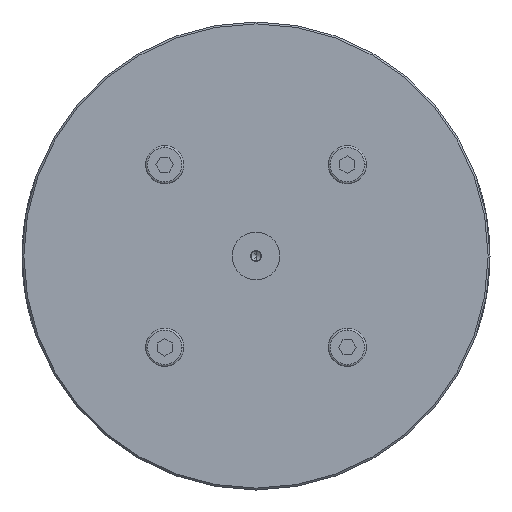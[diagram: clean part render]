
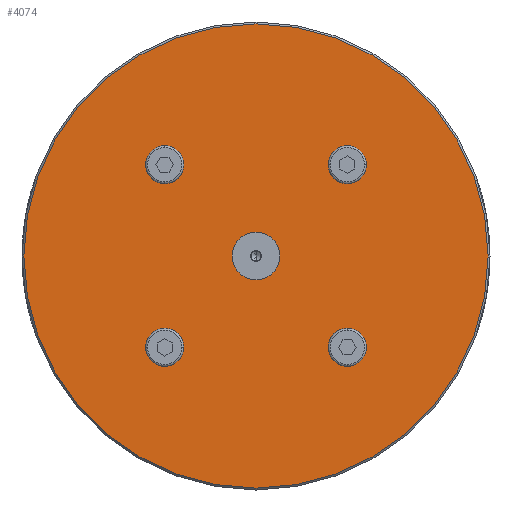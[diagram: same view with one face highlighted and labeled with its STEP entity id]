
A CAD part, front view. The second image highlights one B-rep face of the part: STEP entity #4074.
In plain terms, the highlighted planar face has unit normal (0, -1, 0).
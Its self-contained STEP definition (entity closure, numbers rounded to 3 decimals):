
#352 = CARTESIAN_POINT ( 'NONE',  ( 12.5, 0., 0. ) ) ;
#355 = FACE_OUTER_BOUND ( 'NONE', #2183, .T. ) ;
#356 = FACE_BOUND ( 'NONE', #2190, .T. ) ;
#357 = PLANE ( 'NONE',  #3518 ) ;
#359 = DIRECTION ( 'NONE',  ( 0., -1., 0. ) ) ;
#360 = DIRECTION ( 'NONE',  ( 1., 0., 0. ) ) ;
#1271 = CARTESIAN_POINT ( 'NONE',  ( -12.5, 0., 0. ) ) ;
#1429 = CARTESIAN_POINT ( 'NONE',  ( -122., 0., 0. ) ) ;
#1796 = CARTESIAN_POINT ( 'NONE',  ( 0., 0., 0. ) ) ;
#1797 = DIRECTION ( 'NONE',  ( 0., -1., 0. ) ) ;
#1798 = DIRECTION ( 'NONE',  ( 1., 0., 0. ) ) ;
#1799 = CARTESIAN_POINT ( 'NONE',  ( 0., 0., 0. ) ) ;
#1800 = DIRECTION ( 'NONE',  ( 0., -1., 0. ) ) ;
#1801 = DIRECTION ( 'NONE',  ( 1., 0., 0. ) ) ;
#1819 = CARTESIAN_POINT ( 'NONE',  ( 0., 0., 0. ) ) ;
#1820 = DIRECTION ( 'NONE',  ( 0., -1., 0. ) ) ;
#1821 = DIRECTION ( 'NONE',  ( 1., 0., 0. ) ) ;
#2183 = EDGE_LOOP ( 'NONE', ( #3681, #3679 ) ) ;
#2190 = EDGE_LOOP ( 'NONE', ( #3678, #3677 ) ) ;
#3191 = CARTESIAN_POINT ( 'NONE',  ( 0., 0., 0. ) ) ;
#3192 = DIRECTION ( 'NONE',  ( 0., -1., 0. ) ) ;
#3193 = DIRECTION ( 'NONE',  ( 1., 0., 0. ) ) ;
#3518 = AXIS2_PLACEMENT_3D ( 'NONE', #352, #359, #360 ) ;
#3580 = VERTEX_POINT ( 'NONE', #5926 ) ;
#3619 = VERTEX_POINT ( 'NONE', #5965 ) ;
#3677 = ORIENTED_EDGE ( 'NONE', *, *, #4623, .F. ) ;
#3678 = ORIENTED_EDGE ( 'NONE', *, *, #4617, .F. ) ;
#3679 = ORIENTED_EDGE ( 'NONE', *, *, #4656, .T. ) ;
#3681 = ORIENTED_EDGE ( 'NONE', *, *, #4616, .T. ) ;
#3845 = CIRCLE ( 'NONE', #3854, 12.5 ) ;
#3850 = CIRCLE ( 'NONE', #3852, 122. ) ;
#3852 = AXIS2_PLACEMENT_3D ( 'NONE', #1796, #1797, #1798 ) ;
#3854 = AXIS2_PLACEMENT_3D ( 'NONE', #1799, #1800, #1801 ) ;
#3863 = CIRCLE ( 'NONE', #3865, 12.5 ) ;
#3865 = AXIS2_PLACEMENT_3D ( 'NONE', #1819, #1820, #1821 ) ;
#3903 = CIRCLE ( 'NONE', #3909, 122. ) ;
#3909 = AXIS2_PLACEMENT_3D ( 'NONE', #3191, #3192, #3193 ) ;
#4074 = ADVANCED_FACE ( 'NONE', ( #355, #356 ), #357, .T. ) ;
#4616 = EDGE_CURVE ( 'NONE', #5563, #3580, #3850, .T. ) ;
#4617 = EDGE_CURVE ( 'NONE', #3619, #5027, #3845, .T. ) ;
#4623 = EDGE_CURVE ( 'NONE', #5027, #3619, #3863, .T. ) ;
#4656 = EDGE_CURVE ( 'NONE', #3580, #5563, #3903, .T. ) ;
#5027 = VERTEX_POINT ( 'NONE', #1271 ) ;
#5563 = VERTEX_POINT ( 'NONE', #1429 ) ;
#5926 = CARTESIAN_POINT ( 'NONE',  ( 122., 0., 0. ) ) ;
#5965 = CARTESIAN_POINT ( 'NONE',  ( 12.5, 0., 0. ) ) ;
